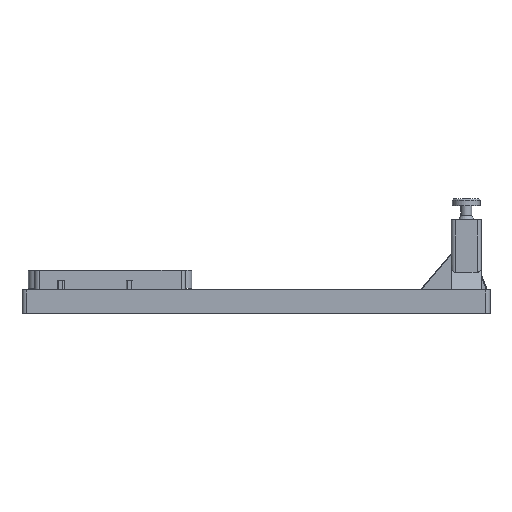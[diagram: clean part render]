
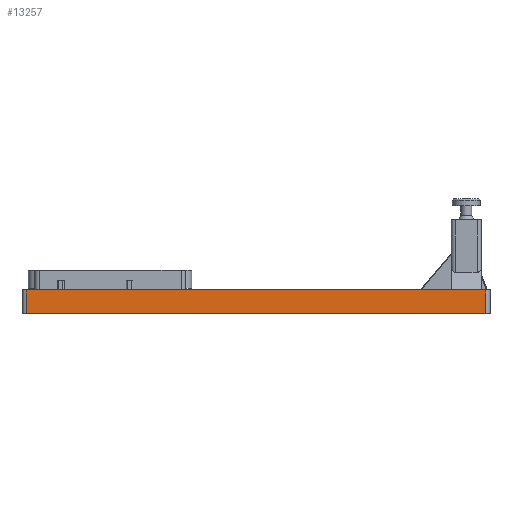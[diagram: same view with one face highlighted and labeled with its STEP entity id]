
A CAD part, front view. The second image highlights one B-rep face of the part: STEP entity #13257.
In plain terms, the highlighted planar face has unit normal (0, -1, 0).
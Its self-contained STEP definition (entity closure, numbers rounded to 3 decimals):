
#564 = PLANE('',#565);
#565 = AXIS2_PLACEMENT_3D('',#566,#567,#568);
#566 = CARTESIAN_POINT('',(70.,-5.6,10.8));
#567 = DIRECTION('',(0.,0.,1.));
#568 = DIRECTION('',(1.,0.,-0.));
#2577 = CYLINDRICAL_SURFACE('',#2578,2.);
#2578 = AXIS2_PLACEMENT_3D('',#2579,#2580,#2581);
#2579 = CARTESIAN_POINT('',(72.,-3.6,0.));
#2580 = DIRECTION('',(0.,0.,1.));
#2581 = DIRECTION('',(-1.,-0.,0.));
#2717 = VERTEX_POINT('',#2718);
#2718 = CARTESIAN_POINT('',(72.,-5.6,0.));
#2733 = PLANE('',#2734);
#2734 = AXIS2_PLACEMENT_3D('',#2735,#2736,#2737);
#2735 = CARTESIAN_POINT('',(70.,-5.6,0.));
#2736 = DIRECTION('',(0.,0.,1.));
#2737 = DIRECTION('',(1.,0.,-0.));
#2745 = EDGE_CURVE('',#2717,#2746,#2748,.T.);
#2746 = VERTEX_POINT('',#2747);
#2747 = CARTESIAN_POINT('',(72.,-5.6,10.8));
#2748 = SURFACE_CURVE('',#2749,(#2753,#2760),.PCURVE_S1.);
#2749 = LINE('',#2750,#2751);
#2750 = CARTESIAN_POINT('',(72.,-5.6,0.));
#2751 = VECTOR('',#2752,1.);
#2752 = DIRECTION('',(0.,0.,1.));
#2753 = PCURVE('',#2577,#2754);
#2754 = DEFINITIONAL_REPRESENTATION('',(#2755),#2759);
#2755 = LINE('',#2756,#2757);
#2756 = CARTESIAN_POINT('',(1.571,0.));
#2757 = VECTOR('',#2758,1.);
#2758 = DIRECTION('',(0.,1.));
#2759 = ( GEOMETRIC_REPRESENTATION_CONTEXT(2) 
PARAMETRIC_REPRESENTATION_CONTEXT() REPRESENTATION_CONTEXT('2D SPACE',''
  ) );
#2760 = PCURVE('',#2761,#2766);
#2761 = PLANE('',#2762);
#2762 = AXIS2_PLACEMENT_3D('',#2763,#2764,#2765);
#2763 = CARTESIAN_POINT('',(70.,-5.6,0.));
#2764 = DIRECTION('',(0.,1.,0.));
#2765 = DIRECTION('',(0.,-0.,1.));
#2766 = DEFINITIONAL_REPRESENTATION('',(#2767),#2771);
#2767 = LINE('',#2768,#2769);
#2768 = CARTESIAN_POINT('',(0.,2.));
#2769 = VECTOR('',#2770,1.);
#2770 = DIRECTION('',(1.,0.));
#2771 = ( GEOMETRIC_REPRESENTATION_CONTEXT(2) 
PARAMETRIC_REPRESENTATION_CONTEXT() REPRESENTATION_CONTEXT('2D SPACE',''
  ) );
#2865 = EDGE_CURVE('',#2866,#2717,#2868,.T.);
#2866 = VERTEX_POINT('',#2867);
#2867 = CARTESIAN_POINT('',(285.639,-5.6,0.));
#2868 = SURFACE_CURVE('',#2869,(#2873,#2880),.PCURVE_S1.);
#2869 = LINE('',#2870,#2871);
#2870 = CARTESIAN_POINT('',(285.639,-5.6,0.));
#2871 = VECTOR('',#2872,1.);
#2872 = DIRECTION('',(-1.,0.,0.));
#2873 = PCURVE('',#2733,#2874);
#2874 = DEFINITIONAL_REPRESENTATION('',(#2875),#2879);
#2875 = LINE('',#2876,#2877);
#2876 = CARTESIAN_POINT('',(215.639,0.));
#2877 = VECTOR('',#2878,1.);
#2878 = DIRECTION('',(-1.,0.));
#2879 = ( GEOMETRIC_REPRESENTATION_CONTEXT(2) 
PARAMETRIC_REPRESENTATION_CONTEXT() REPRESENTATION_CONTEXT('2D SPACE',''
  ) );
#2880 = PCURVE('',#2761,#2881);
#2881 = DEFINITIONAL_REPRESENTATION('',(#2882),#2886);
#2882 = LINE('',#2883,#2884);
#2883 = CARTESIAN_POINT('',(0.,215.639));
#2884 = VECTOR('',#2885,1.);
#2885 = DIRECTION('',(0.,-1.));
#2886 = ( GEOMETRIC_REPRESENTATION_CONTEXT(2) 
PARAMETRIC_REPRESENTATION_CONTEXT() REPRESENTATION_CONTEXT('2D SPACE',''
  ) );
#2909 = CYLINDRICAL_SURFACE('',#2910,2.);
#2910 = AXIS2_PLACEMENT_3D('',#2911,#2912,#2913);
#2911 = CARTESIAN_POINT('',(285.639,-3.6,0.));
#2912 = DIRECTION('',(0.,0.,1.));
#2913 = DIRECTION('',(1.,0.,-0.));
#13208 = EDGE_CURVE('',#2866,#13209,#13211,.T.);
#13209 = VERTEX_POINT('',#13210);
#13210 = CARTESIAN_POINT('',(285.639,-5.6,10.8));
#13211 = SURFACE_CURVE('',#13212,(#13216,#13223),.PCURVE_S1.);
#13212 = LINE('',#13213,#13214);
#13213 = CARTESIAN_POINT('',(285.639,-5.6,0.));
#13214 = VECTOR('',#13215,1.);
#13215 = DIRECTION('',(0.,0.,1.));
#13216 = PCURVE('',#2909,#13217);
#13217 = DEFINITIONAL_REPRESENTATION('',(#13218),#13222);
#13218 = LINE('',#13219,#13220);
#13219 = CARTESIAN_POINT('',(-1.571,0.));
#13220 = VECTOR('',#13221,1.);
#13221 = DIRECTION('',(-0.,1.));
#13222 = ( GEOMETRIC_REPRESENTATION_CONTEXT(2) 
PARAMETRIC_REPRESENTATION_CONTEXT() REPRESENTATION_CONTEXT('2D SPACE',''
  ) );
#13223 = PCURVE('',#2761,#13224);
#13224 = DEFINITIONAL_REPRESENTATION('',(#13225),#13229);
#13225 = LINE('',#13226,#13227);
#13226 = CARTESIAN_POINT('',(0.,215.639));
#13227 = VECTOR('',#13228,1.);
#13228 = DIRECTION('',(1.,0.));
#13229 = ( GEOMETRIC_REPRESENTATION_CONTEXT(2) 
PARAMETRIC_REPRESENTATION_CONTEXT() REPRESENTATION_CONTEXT('2D SPACE',''
  ) );
#13257 = ADVANCED_FACE('',(#13258),#2761,.F.);
#13258 = FACE_BOUND('',#13259,.F.);
#13259 = EDGE_LOOP('',(#13260,#13261,#13282,#13283));
#13260 = ORIENTED_EDGE('',*,*,#2745,.T.);
#13261 = ORIENTED_EDGE('',*,*,#13262,.T.);
#13262 = EDGE_CURVE('',#2746,#13209,#13263,.T.);
#13263 = SURFACE_CURVE('',#13264,(#13268,#13275),.PCURVE_S1.);
#13264 = LINE('',#13265,#13266);
#13265 = CARTESIAN_POINT('',(72.,-5.6,10.8));
#13266 = VECTOR('',#13267,1.);
#13267 = DIRECTION('',(1.,0.,0.));
#13268 = PCURVE('',#2761,#13269);
#13269 = DEFINITIONAL_REPRESENTATION('',(#13270),#13274);
#13270 = LINE('',#13271,#13272);
#13271 = CARTESIAN_POINT('',(10.8,2.));
#13272 = VECTOR('',#13273,1.);
#13273 = DIRECTION('',(0.,1.));
#13274 = ( GEOMETRIC_REPRESENTATION_CONTEXT(2) 
PARAMETRIC_REPRESENTATION_CONTEXT() REPRESENTATION_CONTEXT('2D SPACE',''
  ) );
#13275 = PCURVE('',#564,#13276);
#13276 = DEFINITIONAL_REPRESENTATION('',(#13277),#13281);
#13277 = LINE('',#13278,#13279);
#13278 = CARTESIAN_POINT('',(2.,0.));
#13279 = VECTOR('',#13280,1.);
#13280 = DIRECTION('',(1.,0.));
#13281 = ( GEOMETRIC_REPRESENTATION_CONTEXT(2) 
PARAMETRIC_REPRESENTATION_CONTEXT() REPRESENTATION_CONTEXT('2D SPACE',''
  ) );
#13282 = ORIENTED_EDGE('',*,*,#13208,.F.);
#13283 = ORIENTED_EDGE('',*,*,#2865,.T.);
